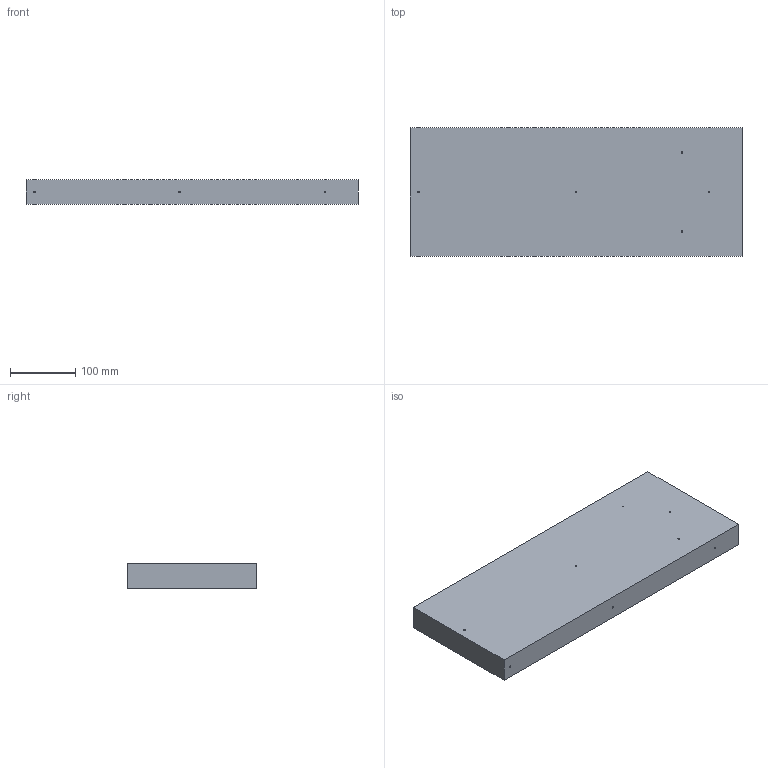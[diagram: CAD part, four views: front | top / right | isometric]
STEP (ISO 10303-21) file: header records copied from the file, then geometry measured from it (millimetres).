
FILE_DESCRIPTION(('FreeCAD Model'),'2;1');
FILE_NAME('/home/jwright/Documents/Mach_30/Shepard_v1.0_CAD/STEP_Files/Shepard_v1.0_Base_Top_TSBa02.step','2012-10-29T21:51:15',('FreeCAD'),('FreeCAD') ,'Open CASCADE STEP processor 6.5','FreeCAD','Unknown');
FILE_SCHEMA(('AUTOMOTIVE_DESIGN_CC2 { 1 2 10303 214 -1 1 5 4 }'));
Length unit declared in the file: millimetre
Products named in the file (1): Cut
Bounding box: 508 x 196.85 x 38.1 mm (x, y, z)
Volume: 3808126.1 mm3; surface area: 256853.2 mm2
Topology: 1 solids, 7 shells, 29 faces, 45 edges, 30 vertices
Faces by surface type: plane 18, cylinder 11
Full cylindrical faces by diameter (mm): 2.38 x1, 2.381 x10
Entity records: 1470 total; most frequent: DIRECTION 217, CARTESIAN_POINT 195, LINE 91, VECTOR 91, ORIENTED_EDGE 90, PCURVE 90, DEFINITIONAL_REPRESENTATION 90, AXIS2_PLACEMENT_3D 52
